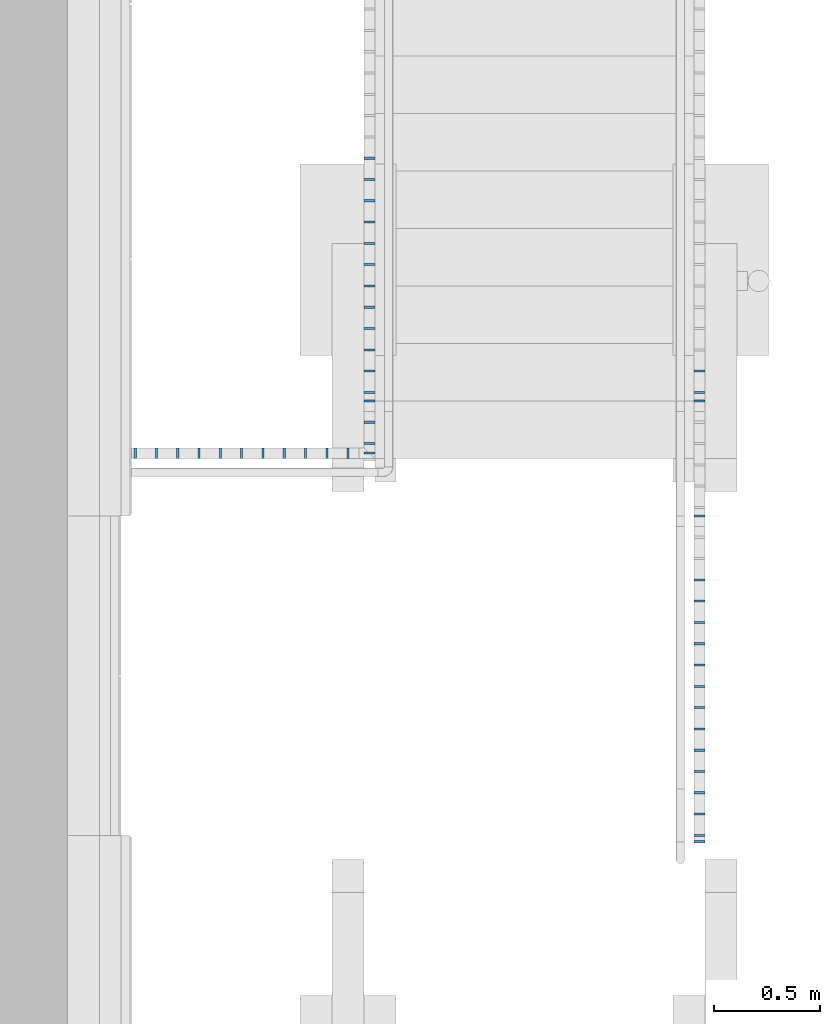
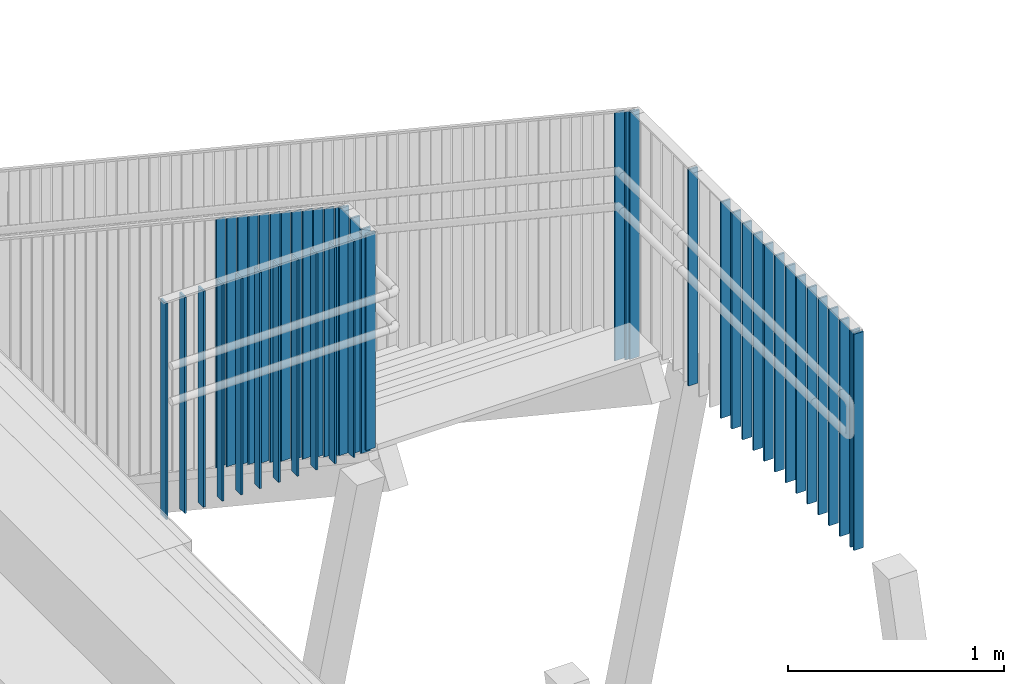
# One storey, part 77 of 418: 45 members, 2 elements without a shape of their own.
"""IFC2X3 building model written with IfcOpenShell, lengths in millimetres."""

from ifc_helpers import new_model, entity, si_unit, converted_unit, derived_unit, money_unit, direction, frame, origin_with_axes, place, context, subcontext, project, spatial, faceted_brep, material, type_object, element, aggregate, save


model = new_model("IFC2X3")

# Units and contexts
model_context = context("Model", 3, precision=0.01, world=origin_with_axes(), true_north=direction((0.0, 1.0)))
body_context = subcontext(model_context, "Body", "Model", "MODEL_VIEW")
ifc_project = project(units=[si_unit("LENGTHUNIT", "METRE", prefix="MILLI"), si_unit("AREAUNIT", "SQUARE_METRE"), si_unit("VOLUMEUNIT", "CUBIC_METRE"), converted_unit("PLANEANGLEUNIT", "DEGREE", entity("IfcPlaneAngleMeasure", 0.0174532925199), si_unit("PLANEANGLEUNIT", "RADIAN"), dimensions=[0, 0, 0, 0, 0, 0, 0]), si_unit("SOLIDANGLEUNIT", "STERADIAN"), money_unit("EUR"), converted_unit("TIMEUNIT", "Year", entity("IfcTimeMeasure", 31556926.0), si_unit("TIMEUNIT", "SECOND"), dimensions=[0, 0, 1, 0, 0, 0, 0]), si_unit("MASSUNIT", "GRAM", prefix="KILO"), si_unit("THERMODYNAMICTEMPERATUREUNIT", "DEGREE_CELSIUS"), si_unit("LUMINOUSINTENSITYUNIT", "LUMEN"), si_unit("ENERGYUNIT", "JOULE", prefix="MEGA"), derived_unit("THERMALCONDUCTANCEUNIT", [(si_unit("POWERUNIT", "WATT"), 1), (si_unit("LENGTHUNIT", "METRE"), -1), (si_unit("THERMODYNAMICTEMPERATUREUNIT", "KELVIN"), -1)]), derived_unit("SPECIFICHEATCAPACITYUNIT", [(si_unit("ENERGYUNIT", "JOULE"), 1), (si_unit("MASSUNIT", "GRAM", prefix="KILO"), -1), (si_unit("THERMODYNAMICTEMPERATUREUNIT", "KELVIN"), -1)]), derived_unit("MASSDENSITYUNIT", [(si_unit("MASSUNIT", "GRAM", prefix="KILO"), 1), (si_unit("VOLUMEUNIT", "CUBIC_METRE"), -1)])], contexts=[model_context])

# Site, building, storey
site_placement = place(None, origin_with_axes())
site = spatial("IfcSite", under=ifc_project, at=site_placement, Name="Paldiski mnt 245/1, Tallinn, Harjumaa", CompositionType="COMPLEX")
building_placement = place(site_placement, origin_with_axes())
building = spatial("IfcBuilding", under=site, at=building_placement, Name="RKAS Hoone üldnimetus (kasutust iseloomustav) -> IFC Project Manager -> SOLIBRI", CompositionType="ELEMENT")
storey_placement = place(building_placement, origin_with_axes())
storey = spatial("IfcBuildingStorey", under=building, at=storey_placement, Name="Esimene korrus", CompositionType="ELEMENT", Elevation=0.0)

# Railing, members
railing_type = type_object("IfcRailingType", Name="Railing Type", PredefinedType="NOTDEFINED")
railing_1_placement = place(storey_placement, frame((-15438.0000282, 781.88210964, -670.434782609), z_axis=(0.0, 0.0, 1.0), x_axis=(-0.773149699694, -0.634223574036, 0.0)))
railing_1 = element("IfcRailing", 1, at=railing_1_placement, inside=storey, type_object=railing_type, Name="Trepipiire", PredefinedType="NOTDEFINED")
ifc_material = material(Name="RAL7016")
member_type = type_object("IfcMemberType", Name="IfcMember", PredefinedType="POST")
member_1_placement = place(railing_1_placement, frame((3101.65531231, 3741.65195116, 3650.43478261), z_axis=(0.0, 0.0, 1.0), x_axis=(-0.773149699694, 0.634223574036, 0.0)))
member_1 = element("IfcMember", 2, at=member_1_placement, type_object=member_type, material=ifc_material, ObjectType="POST", context=body_context, shape_type="Brep", body=[
    faceted_brep([(25.0, -5.0, 93.3333333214), (25.0, 5.0, 86.6666666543), (25.0, 5.0, 1486.42433949), (25.0, -5.0, 1486.42433949), (-24.9999992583, 5.0, 86.6666666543), (-24.9999992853, -5.0, 93.3333333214), (-25.0, 5.0, 1486.42433949), (-25.0, -5.0, 1486.42433949)], [[[0, 1, 2, 3]], [[4, 1, 0, 5]], [[1, 4, 6, 2]], [[6, 7, 3, 2]], [[5, 0, 3, 7]], [[4, 5, 7, 6]]]),
])
member_2_placement = place(railing_1_placement, frame((3257.04008795, 3931.07362759, 3650.43478261), z_axis=(0.0, 0.0, 1.0), x_axis=(-0.773149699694, 0.634223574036, 0.0)))
member_2 = element("IfcMember", 3, at=member_2_placement, type_object=member_type, material=ifc_material, ObjectType="POST", context=body_context, shape_type="Brep", body=[
    faceted_brep([(25.0, -5.0, 1490.0), (25.0, -5.0, 270.0), (25.0, 5.0, 270.0), (25.0, 5.0, 1490.0), (-25.0, -5.0, 1490.0), (-25.0, -5.0, 270.0), (-25.0, 5.0, 270.0), (-25.0, 5.0, 1490.0)], [[[0, 1, 2, 3]], [[4, 5, 1, 0]], [[5, 6, 2, 1]], [[3, 2, 6, 7]], [[3, 7, 4, 0]], [[7, 6, 5, 4]]]),
])
member_3_placement = place(railing_1_placement, frame((2378.64043791, 2860.26129351, 2892.2705314), z_axis=(0.0, 0.0, 1.0), x_axis=(-0.773149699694, 0.634223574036, 0.0)))
member_3 = element("IfcMember", 4, at=member_3_placement, type_object=member_type, material=ifc_material, Name="Piirde Post - 001", ObjectType="POST", context=body_context, shape_type="Brep", body=[
    faceted_brep([(25.0, -5.0, 91.4975844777), (25.0, 5.0, 84.8309178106), (25.0, 5.0, 1486.6747182), (25.0, -5.0, 1493.3252818), (-24.9999961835, 5.0, 84.8309178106), (-24.9999962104, -5.0, 91.4975844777), (-25.0, 5.0, 1486.6747182), (-25.0, -5.0, 1493.3252818)], [[[0, 1, 2, 3]], [[4, 1, 0, 5]], [[1, 4, 6, 2]], [[6, 7, 3, 2]], [[5, 0, 3, 7]], [[4, 5, 7, 6]]]),
])
member_4_placement = place(railing_1_placement, frame((2442.06279531, 2937.57626348, 2958.77616747), z_axis=(0.0, 0.0, 1.0), x_axis=(-0.773149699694, 0.634223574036, 0.0)))
member_4 = element("IfcMember", 5, at=member_4_placement, type_object=member_type, material=ifc_material, Name="Balustraad - 001", ObjectType="POST", context=body_context, shape_type="Brep", body=[
    faceted_brep([(25.0, -5.0, 91.658615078), (25.0, 5.0, 84.9919484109), (25.0, 5.0, 1486.6747182), (25.0, -5.0, 1493.3252818), (-24.9999964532, 5.0, 84.9919484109), (-24.9999964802, -5.0, 91.658615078), (-25.0, 5.0, 1486.6747182), (-25.0, -5.0, 1493.3252818)], [[[0, 1, 2, 3]], [[4, 1, 0, 5]], [[1, 4, 6, 2]], [[6, 7, 3, 2]], [[5, 0, 3, 7]], [[4, 5, 7, 6]]]),
])
member_5_placement = place(railing_1_placement, frame((2505.48515271, 3014.89123345, 3025.28180354), z_axis=(0.0, 0.0, 1.0), x_axis=(-0.773149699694, 0.634223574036, 0.0)))
member_5 = element("IfcMember", 6, at=member_5_placement, type_object=member_type, material=ifc_material, Name="Balustraad - 001", ObjectType="POST", context=body_context, shape_type="Brep", body=[
    faceted_brep([(25.0, -5.0, 91.8196456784), (25.0, 5.0, 85.1529790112), (25.0, 5.0, 1486.6747182), (25.0, -5.0, 1493.3252818), (-24.9999967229, 5.0, 85.1529790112), (-24.9999967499, -5.0, 91.8196456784), (-25.0, 5.0, 1486.6747182), (-25.0, -5.0, 1493.3252818)], [[[0, 1, 2, 3]], [[4, 1, 0, 5]], [[1, 4, 6, 2]], [[6, 7, 3, 2]], [[5, 0, 3, 7]], [[4, 5, 7, 6]]]),
])
member_6_placement = place(railing_1_placement, frame((2568.90751012, 3092.20620342, 3091.78743961), z_axis=(0.0, 0.0, 1.0), x_axis=(-0.773149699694, 0.634223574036, 0.0)))
member_6 = element("IfcMember", 7, at=member_6_placement, type_object=member_type, material=ifc_material, Name="Balustraad - 001", ObjectType="POST", context=body_context, shape_type="Brep", body=[
    faceted_brep([(25.0, -5.0, 91.9806762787), (25.0, 5.0, 85.3140096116), (25.0, 5.0, 1486.6747182), (25.0, -5.0, 1493.3252818), (-24.9999969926, 5.0, 85.3140096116), (-24.9999970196, -5.0, 91.9806762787), (-25.0, 5.0, 1486.6747182), (-25.0, -5.0, 1493.3252818)], [[[0, 1, 2, 3]], [[4, 1, 0, 5]], [[1, 4, 6, 2]], [[6, 7, 3, 2]], [[5, 0, 3, 7]], [[4, 5, 7, 6]]]),
])
member_7_placement = place(railing_1_placement, frame((2632.32986752, 3169.52117339, 3158.29307568), z_axis=(0.0, 0.0, 1.0), x_axis=(-0.773149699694, 0.634223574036, 0.0)))
member_7 = element("IfcMember", 8, at=member_7_placement, type_object=member_type, material=ifc_material, Name="Balustraad - 001", ObjectType="POST", context=body_context, shape_type="Brep", body=[
    faceted_brep([(25.0, -5.0, 92.141706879), (25.0, 5.0, 85.4750402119), (25.0, 5.0, 1486.6747182), (25.0, -5.0, 1493.3252818), (-24.9999972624, 5.0, 85.4750402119), (-24.9999972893, -5.0, 92.141706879), (-25.0, 5.0, 1486.6747182), (-25.0, -5.0, 1493.3252818)], [[[0, 1, 2, 3]], [[4, 1, 0, 5]], [[1, 4, 6, 2]], [[6, 7, 3, 2]], [[5, 0, 3, 7]], [[4, 5, 7, 6]]]),
])
member_8_placement = place(railing_1_placement, frame((2695.75222493, 3246.83614336, 3224.79871176), z_axis=(0.0, 0.0, 1.0), x_axis=(-0.773149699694, 0.634223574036, 0.0)))
member_8 = element("IfcMember", 9, at=member_8_placement, type_object=member_type, material=ifc_material, Name="Balustraad - 001", ObjectType="POST", context=body_context, shape_type="Brep", body=[
    faceted_brep([(25.0, -5.0, 92.3027374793), (25.0, 5.0, 85.6360708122), (25.0, 5.0, 1486.6747182), (25.0, -5.0, 1493.3252818), (-24.9999975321, 5.0, 85.6360708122), (-24.999997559, -5.0, 92.3027374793), (-25.0, 5.0, 1486.6747182), (-25.0, -5.0, 1493.3252818)], [[[0, 1, 2, 3]], [[4, 1, 0, 5]], [[1, 4, 6, 2]], [[6, 7, 3, 2]], [[5, 0, 3, 7]], [[4, 5, 7, 6]]]),
])
member_9_placement = place(railing_1_placement, frame((2759.17458233, 3324.15111333, 3291.30434783), z_axis=(0.0, 0.0, 1.0), x_axis=(-0.773149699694, 0.634223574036, 0.0)))
member_9 = element("IfcMember", 10, at=member_9_placement, type_object=member_type, material=ifc_material, Name="Balustraad - 001", ObjectType="POST", context=body_context, shape_type="Brep", body=[
    faceted_brep([(25.0, -5.0, 92.4637680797), (25.0, 5.0, 85.7971014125), (25.0, 5.0, 1486.6747182), (25.0, -5.0, 1493.3252818), (-24.9999978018, 5.0, 85.7971014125), (-24.9999978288, -5.0, 92.4637680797), (-25.0, 5.0, 1486.6747182), (-25.0, -5.0, 1493.3252818)], [[[0, 1, 2, 3]], [[4, 1, 0, 5]], [[1, 4, 6, 2]], [[6, 7, 3, 2]], [[5, 0, 3, 7]], [[4, 5, 7, 6]]]),
])
member_10_placement = place(railing_1_placement, frame((2822.59693973, 3401.4660833, 3357.8099839), z_axis=(0.0, 0.0, 1.0), x_axis=(-0.773149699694, 0.634223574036, 0.0)))
member_10 = element("IfcMember", 11, at=member_10_placement, type_object=member_type, material=ifc_material, Name="Balustraad - 001", ObjectType="POST", context=body_context, shape_type="Brep", body=[
    faceted_brep([(25.0, -5.0, 92.62479868), (25.0, 5.0, 85.9581320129), (25.0, 5.0, 1486.6747182), (25.0, -5.0, 1493.3252818), (-24.9999980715, 5.0, 85.9581320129), (-24.9999980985, -5.0, 92.62479868), (-25.0, 5.0, 1486.6747182), (-25.0, -5.0, 1493.3252818)], [[[0, 1, 2, 3]], [[4, 1, 0, 5]], [[1, 4, 6, 2]], [[6, 7, 3, 2]], [[5, 0, 3, 7]], [[4, 5, 7, 6]]]),
])
member_11_placement = place(railing_1_placement, frame((2886.01929714, 3478.78105327, 3424.31561997), z_axis=(0.0, 0.0, 1.0), x_axis=(-0.773149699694, 0.634223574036, 0.0)))
member_11 = element("IfcMember", 12, at=member_11_placement, type_object=member_type, material=ifc_material, Name="Balustraad - 001", ObjectType="POST", context=body_context, shape_type="Brep", body=[
    faceted_brep([(25.0, -5.0, 92.7858292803), (25.0, 5.0, 86.1191626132), (25.0, 5.0, 1486.6747182), (25.0, -5.0, 1493.3252818), (-24.9999983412, 5.0, 86.1191626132), (-24.9999983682, -5.0, 92.7858292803), (-25.0, 5.0, 1486.6747182), (-25.0, -5.0, 1493.3252818)], [[[0, 1, 2, 3]], [[4, 1, 0, 5]], [[1, 4, 6, 2]], [[6, 7, 3, 2]], [[5, 0, 3, 7]], [[4, 5, 7, 6]]]),
])
member_12_placement = place(railing_1_placement, frame((2949.44165454, 3556.09602323, 3490.82125604), z_axis=(0.0, 0.0, 1.0), x_axis=(-0.773149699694, 0.634223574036, 0.0)))
member_12 = element("IfcMember", 13, at=member_12_placement, type_object=member_type, material=ifc_material, Name="Balustraad - 001", ObjectType="POST", context=body_context, shape_type="Brep", body=[
    faceted_brep([(25.0, -5.0, 92.9468598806), (25.0, 5.0, 86.2801932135), (25.0, 5.0, 1486.6747182), (25.0, -5.0, 1493.3252818), (-24.999998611, 5.0, 86.2801932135), (-24.9999986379, -5.0, 92.9468598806), (-25.0, 5.0, 1486.6747182), (-25.0, -5.0, 1493.3252818)], [[[0, 1, 2, 3]], [[4, 1, 0, 5]], [[1, 4, 6, 2]], [[6, 7, 3, 2]], [[5, 0, 3, 7]], [[4, 5, 7, 6]]]),
])
member_13_placement = place(railing_1_placement, frame((3012.86401194, 3633.4109932, 3557.32689211), z_axis=(0.0, 0.0, 1.0), x_axis=(-0.773149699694, 0.634223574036, 0.0)))
member_13 = element("IfcMember", 14, at=member_13_placement, type_object=member_type, material=ifc_material, Name="Balustraad - 001", ObjectType="POST", context=body_context, shape_type="Brep", body=[
    faceted_brep([(25.0, -5.0, 93.1078904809), (25.0, 5.0, 86.4412238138), (25.0, 5.0, 1486.6747182), (25.0, -5.0, 1493.3252818), (-24.9999988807, 5.0, 86.4412238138), (-24.9999989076, -5.0, 93.1078904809), (-25.0, 5.0, 1486.6747182), (-25.0, -5.0, 1493.3252818)], [[[0, 1, 2, 3]], [[4, 1, 0, 5]], [[1, 4, 6, 2]], [[6, 7, 3, 2]], [[5, 0, 3, 7]], [[4, 5, 7, 6]]]),
])
member_14_placement = place(railing_1_placement, frame((3076.28636935, 3710.72596317, 3623.83252818), z_axis=(0.0, 0.0, 1.0), x_axis=(-0.773149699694, 0.634223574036, 0.0)))
member_14 = element("IfcMember", 15, at=member_14_placement, type_object=member_type, material=ifc_material, Name="Balustraad - 001", ObjectType="POST", context=body_context, shape_type="Brep", body=[
    faceted_brep([(25.0, -5.0, 93.2689210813), (25.0, 5.0, 86.6022544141), (25.0, 5.0, 1486.6747182), (25.0, -5.0, 1493.3252818), (-24.9999991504, 5.0, 86.6022544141), (-24.9999991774, -5.0, 93.2689210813), (-25.0, 5.0, 1486.6747182), (-25.0, -5.0, 1493.3252818)], [[[0, 1, 2, 3]], [[4, 1, 0, 5]], [[1, 4, 6, 2]], [[6, 7, 3, 2]], [[5, 0, 3, 7]], [[4, 5, 7, 6]]]),
])
member_15_placement = place(railing_1_placement, frame((3165.07766971, 3818.96692113, 3650.43478261), z_axis=(0.0, 0.0, 1.0), x_axis=(-0.773149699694, 0.634223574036, 0.0)))
member_15 = element("IfcMember", 16, at=member_15_placement, type_object=member_type, material=ifc_material, Name="Balustraad - 001", ObjectType="POST", context=body_context, shape_type="Brep", body=[
    faceted_brep([(25.0, -5.0, 159.999999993), (25.0, 5.0, 153.333333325), (25.0, 5.0, 1490.0), (25.0, -5.0, 1490.0), (-24.999999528, 5.0, 153.333333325), (-24.999999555, -5.0, 159.999999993), (-25.0, 5.0, 1490.0), (-25.0, -5.0, 1490.0)], [[[0, 1, 2, 3]], [[4, 1, 0, 5]], [[1, 4, 6, 2]], [[6, 7, 3, 2]], [[5, 0, 3, 7]], [[4, 5, 7, 6]]]),
])
member_16_placement = place(railing_1_placement, frame((3228.50002712, 3896.2818911, 3650.43478261), z_axis=(0.0, 0.0, 1.0), x_axis=(-0.773149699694, 0.634223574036, 0.0)))
member_16 = element("IfcMember", 17, at=member_16_placement, type_object=member_type, material=ifc_material, Name="Balustraad - 001", ObjectType="POST", context=body_context, shape_type="Brep", body=[
    faceted_brep([(25.0, -5.0, 226.666666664), (25.0, 5.0, 219.999999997), (25.0, 5.0, 1490.0), (25.0, -5.0, 1490.0), (-24.9999997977, 5.0, 219.999999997), (-24.9999998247, -5.0, 226.666666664), (-25.0, 5.0, 1490.0), (-25.0, -5.0, 1490.0)], [[[0, 1, 2, 3]], [[4, 1, 0, 5]], [[1, 4, 6, 2]], [[6, 7, 3, 2]], [[5, 0, 3, 7]], [[4, 5, 7, 6]]]),
])
member_17_placement = place(railing_1_placement, frame((3334.35505792, 3867.65127018, 3650.43478261), z_axis=(0.0, 0.0, 1.0), x_axis=(-0.773149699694, 0.634223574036, 0.0)))
member_17 = element("IfcMember", 18, at=member_17_placement, type_object=member_type, material=ifc_material, Name="Balustraad - 001", ObjectType="POST", context=body_context, shape_type="Brep", body=[
    faceted_brep([(5.0, -25.0, 270.0), (5.0, 25.0, 270.0), (5.0, 25.0, 1490.0), (5.0, -25.0, 1490.0), (-5.0, 25.0, 270.0), (-5.0, -25.0, 270.0), (-5.0, 25.0, 1490.0), (-5.0, -25.0, 1490.0)], [[[0, 1, 2, 3]], [[4, 1, 0, 5]], [[1, 4, 6, 2]], [[2, 6, 7, 3]], [[5, 0, 3, 7]], [[4, 5, 7, 6]]]),
])
member_18_placement = place(railing_1_placement, frame((3411.67002789, 3804.22891278, 3650.43478261), z_axis=(0.0, 0.0, 1.0), x_axis=(-0.773149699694, 0.634223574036, 0.0)))
member_18 = element("IfcMember", 19, at=member_18_placement, type_object=member_type, material=ifc_material, Name="Balustraad - 001", ObjectType="POST", context=body_context, shape_type="Brep", body=[
    faceted_brep([(5.0, -25.0, 270.0), (5.0, 25.0, 270.0), (5.0, 25.0, 1490.0), (5.0, -25.0, 1490.0), (-5.0, 25.0, 270.0), (-5.0, -25.0, 270.0), (-5.0, 25.0, 1490.0), (-5.0, -25.0, 1490.0)], [[[0, 1, 2, 3]], [[4, 1, 0, 5]], [[1, 4, 6, 2]], [[2, 6, 7, 3]], [[5, 0, 3, 7]], [[4, 5, 7, 6]]]),
])
member_19_placement = place(railing_1_placement, frame((3488.98499786, 3740.80655537, 3650.43478261), z_axis=(0.0, 0.0, 1.0), x_axis=(-0.773149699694, 0.634223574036, 0.0)))
member_19 = element("IfcMember", 20, at=member_19_placement, type_object=member_type, material=ifc_material, Name="Balustraad - 001", ObjectType="POST", context=body_context, shape_type="Brep", body=[
    faceted_brep([(5.0, -25.0, 270.0), (5.0, 25.0, 270.0), (5.0, 25.0, 1490.0), (5.0, -25.0, 1490.0), (-5.0, 25.0, 270.0), (-5.0, -25.0, 270.0), (-5.0, 25.0, 1490.0), (-5.0, -25.0, 1490.0)], [[[0, 1, 2, 3]], [[4, 1, 0, 5]], [[1, 4, 6, 2]], [[2, 6, 7, 3]], [[5, 0, 3, 7]], [[4, 5, 7, 6]]]),
])
member_20_placement = place(railing_1_placement, frame((3566.29996783, 3677.38419797, 3650.43478261), z_axis=(0.0, 0.0, 1.0), x_axis=(-0.773149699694, 0.634223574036, 0.0)))
member_20 = element("IfcMember", 21, at=member_20_placement, type_object=member_type, material=ifc_material, Name="Balustraad - 001", ObjectType="POST", context=body_context, shape_type="Brep", body=[
    faceted_brep([(5.0, -25.0, 270.0), (5.0, 25.0, 270.0), (5.0, 25.0, 1490.0), (5.0, -25.0, 1490.0), (-5.0, 25.0, 270.0), (-5.0, -25.0, 270.0), (-5.0, 25.0, 1490.0), (-5.0, -25.0, 1490.0)], [[[0, 1, 2, 3]], [[4, 1, 0, 5]], [[1, 4, 6, 2]], [[2, 6, 7, 3]], [[5, 0, 3, 7]], [[4, 5, 7, 6]]]),
])
member_21_placement = place(railing_1_placement, frame((3643.61493779, 3613.96184057, 3650.43478261), z_axis=(0.0, 0.0, 1.0), x_axis=(-0.773149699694, 0.634223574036, 0.0)))
member_21 = element("IfcMember", 22, at=member_21_placement, type_object=member_type, material=ifc_material, Name="Balustraad - 001", ObjectType="POST", context=body_context, shape_type="Brep", body=[
    faceted_brep([(5.0, -25.0, 270.0), (5.0, 25.0, 270.0), (5.0, 25.0, 1490.0), (5.0, -25.0, 1490.0), (-5.0, 25.0, 270.0), (-5.0, -25.0, 270.0), (-5.0, 25.0, 1490.0), (-5.0, -25.0, 1490.0)], [[[0, 1, 2, 3]], [[4, 1, 0, 5]], [[1, 4, 6, 2]], [[2, 6, 7, 3]], [[5, 0, 3, 7]], [[4, 5, 7, 6]]]),
])
member_22_placement = place(railing_1_placement, frame((3720.92990776, 3550.53948316, 3650.43478261), z_axis=(0.0, 0.0, 1.0), x_axis=(-0.773149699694, 0.634223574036, 0.0)))
member_22 = element("IfcMember", 23, at=member_22_placement, type_object=member_type, material=ifc_material, Name="Balustraad - 001", ObjectType="POST", context=body_context, shape_type="Brep", body=[
    faceted_brep([(5.0, -25.0, 270.0), (5.0, 25.0, 270.0), (5.00000000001, 25.0, 1490.0), (5.00000000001, -25.0, 1490.0), (-5.0, 25.0, 270.0), (-5.0, -25.0, 270.0), (-5.0, 25.0, 1490.0), (-5.0, -25.0, 1490.0)], [[[0, 1, 2, 3]], [[4, 1, 0, 5]], [[1, 4, 6, 2]], [[2, 6, 7, 3]], [[5, 0, 3, 7]], [[4, 5, 7, 6]]]),
])
member_23_placement = place(railing_1_placement, frame((3798.24487773, 3487.11712576, 3650.43478261), z_axis=(0.0, 0.0, 1.0), x_axis=(-0.773149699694, 0.634223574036, 0.0)))
member_23 = element("IfcMember", 24, at=member_23_placement, type_object=member_type, material=ifc_material, Name="Balustraad - 001", ObjectType="POST", context=body_context, shape_type="Brep", body=[
    faceted_brep([(5.0, -25.0, 270.0), (5.0, 25.0, 270.0), (5.0, 25.0, 1490.0), (5.0, -25.0, 1490.0), (-5.0, 25.0, 270.0), (-5.0, -25.0, 270.0), (-5.0, 25.0, 1490.0), (-5.0, -25.0, 1490.0)], [[[0, 1, 2, 3]], [[4, 1, 0, 5]], [[1, 4, 6, 2]], [[2, 6, 7, 3]], [[5, 0, 3, 7]], [[4, 5, 7, 6]]]),
])
member_24_placement = place(railing_1_placement, frame((3875.5598477, 3423.69476836, 3650.43478261), z_axis=(0.0, 0.0, 1.0), x_axis=(-0.773149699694, 0.634223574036, 0.0)))
member_24 = element("IfcMember", 25, at=member_24_placement, type_object=member_type, material=ifc_material, Name="Balustraad - 001", ObjectType="POST", context=body_context, shape_type="Brep", body=[
    faceted_brep([(5.0, -25.0, 270.0), (5.0, 25.0, 270.0), (5.0, 25.0, 1490.0), (5.0, -25.0, 1490.0), (-5.0, 25.0, 270.0), (-5.0, -25.0, 270.0), (-5.0, 25.0, 1490.0), (-5.0, -25.0, 1490.0)], [[[0, 1, 2, 3]], [[4, 1, 0, 5]], [[1, 4, 6, 2]], [[2, 6, 7, 3]], [[5, 0, 3, 7]], [[4, 5, 7, 6]]]),
])
member_25_placement = place(railing_1_placement, frame((3952.87481767, 3360.27241095, 3650.43478261), z_axis=(0.0, 0.0, 1.0), x_axis=(-0.773149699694, 0.634223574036, 0.0)))
member_25 = element("IfcMember", 26, at=member_25_placement, type_object=member_type, material=ifc_material, Name="Balustraad - 001", ObjectType="POST", context=body_context, shape_type="Brep", body=[
    faceted_brep([(5.0, -25.0, 270.0), (5.0, 25.0, 270.0), (5.00000000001, 25.0, 1490.0), (5.00000000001, -25.0, 1490.0), (-5.0, 25.0, 270.0), (-5.0, -25.0, 270.0), (-5.0, 25.0, 1490.0), (-5.0, -25.0, 1490.0)], [[[0, 1, 2, 3]], [[4, 1, 0, 5]], [[1, 4, 6, 2]], [[2, 6, 7, 3]], [[5, 0, 3, 7]], [[4, 5, 7, 6]]]),
])
member_26_placement = place(railing_1_placement, frame((4030.18978764, 3296.85005355, 3650.43478261), z_axis=(0.0, 0.0, 1.0), x_axis=(-0.773149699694, 0.634223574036, 0.0)))
member_26 = element("IfcMember", 27, at=member_26_placement, type_object=member_type, material=ifc_material, Name="Balustraad - 001", ObjectType="POST", context=body_context, shape_type="Brep", body=[
    faceted_brep([(5.0, -25.0, 270.0), (5.0, 25.0, 270.0), (5.00000000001, 25.0, 1490.0), (5.00000000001, -25.0, 1490.0), (-5.0, 25.0, 270.0), (-5.0, -25.0, 270.0), (-5.0, 25.0, 1490.0), (-5.0, -25.0, 1490.0)], [[[0, 1, 2, 3]], [[4, 1, 0, 5]], [[1, 4, 6, 2]], [[2, 6, 7, 3]], [[5, 0, 3, 7]], [[4, 5, 7, 6]]]),
])
member_27_placement = place(railing_1_placement, frame((4107.50475761, 3233.42769615, 3650.43478261), z_axis=(0.0, 0.0, 1.0), x_axis=(-0.773149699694, 0.634223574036, 0.0)))
member_27 = element("IfcMember", 28, at=member_27_placement, type_object=member_type, material=ifc_material, Name="Balustraad - 001", ObjectType="POST", context=body_context, shape_type="Brep", body=[
    faceted_brep([(5.0, -25.0, 270.0), (5.0, 25.0, 270.0), (5.00000000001, 25.0, 1490.0), (5.00000000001, -25.0, 1490.0), (-5.0, 25.0, 270.0), (-5.0, -25.0, 270.0), (-5.0, 25.0, 1490.0), (-5.0, -25.0, 1490.0)], [[[0, 1, 2, 3]], [[4, 1, 0, 5]], [[1, 4, 6, 2]], [[2, 6, 7, 3]], [[5, 0, 3, 7]], [[4, 5, 7, 6]]]),
])
aggregate(railing_1, [member_1, member_2, member_3, member_4, member_5, member_6, member_7, member_8, member_9, member_10, member_11, member_12, member_13, member_14, member_15, member_16, member_17, member_18, member_19, member_20, member_21, member_22, member_23, member_24, member_25, member_26, member_27])

railing_2_placement = place(storey_placement, frame((-13938.0000282, 1623.82640275, -670.434782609), z_axis=(0.0, 0.0, 1.0), x_axis=(0.773149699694, 0.634223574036, 0.0)))
railing_2 = element("IfcRailing", 29, at=railing_2_placement, inside=storey, type_object=railing_type, Name="Trepipiire", PredefinedType="NOTDEFINED")
member_28_placement = place(railing_2_placement, frame((-3596.97874604, -4424.31210724, 3650.43478261), z_axis=(0.0, 0.0, 1.0), x_axis=(0.773149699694, -0.634223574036, 0.0)))
member_28 = element("IfcMember", 30, at=member_28_placement, type_object=member_type, material=ifc_material, ObjectType="POST", context=body_context, shape_type="Brep", body=[
    faceted_brep([(24.9999999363, -5.0, 93.3333333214), (24.9999999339, 5.0, 86.6666666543), (25.0, 5.0, 1486.42433949), (25.0, -5.0, 1486.42433949), (-25.0, 5.0, 86.6666666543), (-25.0, -5.0, 93.3333333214), (-25.0, 5.0, 1486.42433949), (-25.0, -5.0, 1486.42433949)], [[[0, 1, 2, 3]], [[4, 1, 0, 5]], [[1, 4, 6, 2]], [[6, 7, 3, 2]], [[5, 0, 3, 7]], [[4, 5, 7, 6]]]),
])
member_29_placement = place(railing_2_placement, frame((-3939.45947602, -4841.81294508, 3650.43478261), z_axis=(0.0, 0.0, 1.0), x_axis=(0.773149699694, -0.634223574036, 0.0)))
member_29 = element("IfcMember", 31, at=member_29_placement, type_object=member_type, material=ifc_material, ObjectType="POST", context=body_context, shape_type="Brep", body=[
    faceted_brep([(25.0, -5.0, 270.0), (25.0, 5.0, 270.0), (25.0, 5.0, 1490.0), (25.0, -5.0, 1490.0), (-25.0, 5.0, 270.0), (-25.0, -5.0, 270.0), (-25.0, 5.0, 1490.0), (-25.0, -5.0, 1490.0)], [[[0, 1, 2, 3]], [[4, 1, 0, 5]], [[1, 4, 6, 2]], [[6, 7, 3, 2]], [[5, 0, 3, 7]], [[4, 5, 7, 6]]]),
])
member_30_placement = place(railing_2_placement, frame((-4909.83560287, -6024.74912369, 3650.43478261), z_axis=(0.0, 0.0, 1.0), x_axis=(0.773149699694, -0.634223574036, 0.0)))
member_30 = element("IfcMember", 32, at=member_30_placement, type_object=member_type, material=ifc_material, ObjectType="POST", context=body_context, shape_type="Brep", body=[
    faceted_brep([(25.0, -5.0, 270.0), (25.0, 5.0, 270.0), (25.0, 5.0, 1490.0), (25.0, -5.0, 1490.0), (-25.0, 5.0, 270.0), (-25.0, -5.0, 270.0), (-25.0, 5.0, 1490.0), (-25.0, -5.0, 1490.0)], [[[0, 1, 2, 3]], [[4, 1, 0, 5]], [[1, 4, 6, 2]], [[6, 7, 3, 2]], [[5, 0, 3, 7]], [[4, 5, 7, 6]]]),
])
member_31_placement = place(railing_2_placement, frame((-3508.18744568, -4316.07114929, 3557.32689211), z_axis=(0.0, 0.0, 1.0), x_axis=(0.773149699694, -0.634223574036, 0.0)))
member_31 = element("IfcMember", 33, at=member_31_placement, type_object=member_type, material=ifc_material, Name="Balustraad - 001", ObjectType="POST", context=body_context, shape_type="Brep", body=[
    faceted_brep([(24.9999999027, -5.0, 93.1078904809), (24.9999999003, 5.0, 86.4412238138), (25.0, 5.0, 1486.6747182), (25.0, -5.0, 1493.3252818), (-25.0, 5.0, 86.4412238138), (-25.0, -5.0, 93.1078904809), (-25.0, 5.0, 1486.6747182), (-25.0, -5.0, 1493.3252818)], [[[0, 1, 2, 3]], [[4, 1, 0, 5]], [[1, 4, 6, 2]], [[6, 7, 3, 2]], [[5, 0, 3, 7]], [[4, 5, 7, 6]]]),
])
member_32_placement = place(railing_2_placement, frame((-3571.60980308, -4393.38611926, 3623.83252818), z_axis=(0.0, 0.0, 1.0), x_axis=(0.773149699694, -0.634223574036, 0.0)))
member_32 = element("IfcMember", 34, at=member_32_placement, type_object=member_type, material=ifc_material, Name="Balustraad - 001", ObjectType="POST", context=body_context, shape_type="Brep", body=[
    faceted_brep([(24.9999999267, -5.0, 93.2689210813), (24.9999999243, 5.0, 86.6022544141), (25.0, 5.0, 1486.6747182), (25.0, -5.0, 1493.3252818), (-25.0, 5.0, 86.6022544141), (-25.0, -5.0, 93.2689210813), (-25.0, 5.0, 1486.6747182), (-25.0, -5.0, 1493.3252818)], [[[0, 1, 2, 3]], [[4, 1, 0, 5]], [[1, 4, 6, 2]], [[6, 7, 3, 2]], [[5, 0, 3, 7]], [[4, 5, 7, 6]]]),
])
member_33_placement = place(railing_2_placement, frame((-4129.72654823, -5073.75785499, 3650.43478261), z_axis=(0.0, 0.0, 1.0), x_axis=(0.773149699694, -0.634223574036, 0.0)))
member_33 = element("IfcMember", 35, at=member_33_placement, type_object=member_type, material=ifc_material, Name="Balustraad - 001", ObjectType="POST", context=body_context, shape_type="Brep", body=[
    faceted_brep([(25.0, -5.0, 270.0), (25.0, 5.0, 270.0), (25.0, 5.0, 1490.0), (25.0, -5.0, 1490.0), (-25.0, 5.0, 270.0), (-25.0, -5.0, 270.0), (-25.0, 5.0, 1490.0), (-25.0, -5.0, 1490.0)], [[[0, 1, 2, 3]], [[4, 1, 0, 5]], [[1, 4, 6, 2]], [[6, 7, 3, 2]], [[5, 0, 3, 7]], [[4, 5, 7, 6]]]),
])
member_34_placement = place(railing_2_placement, frame((-4193.14890564, -5151.07282496, 3650.43478261), z_axis=(0.0, 0.0, 1.0), x_axis=(0.773149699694, -0.634223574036, 0.0)))
member_34 = element("IfcMember", 36, at=member_34_placement, type_object=member_type, material=ifc_material, Name="Balustraad - 001", ObjectType="POST", context=body_context, shape_type="Brep", body=[
    faceted_brep([(25.0, -5.0, 270.0), (25.0, 5.0, 270.0), (25.0, 5.0, 1490.0), (25.0, -5.0, 1490.0), (-25.0, 5.0, 270.0), (-25.0, -5.0, 270.0), (-25.0, 5.0, 1490.0), (-25.0, -5.0, 1490.0)], [[[0, 1, 2, 3]], [[4, 1, 0, 5]], [[1, 4, 6, 2]], [[6, 7, 3, 2]], [[5, 0, 3, 7]], [[4, 5, 7, 6]]]),
])
member_35_placement = place(railing_2_placement, frame((-4256.57126304, -5228.38779492, 3650.43478261), z_axis=(0.0, 0.0, 1.0), x_axis=(0.773149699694, -0.634223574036, 0.0)))
member_35 = element("IfcMember", 37, at=member_35_placement, type_object=member_type, material=ifc_material, Name="Balustraad - 001", ObjectType="POST", context=body_context, shape_type="Brep", body=[
    faceted_brep([(25.0, -5.0, 270.0), (25.0, 5.0, 270.0), (25.0, 5.0, 1490.0), (25.0, -5.0, 1490.0), (-25.0, 5.0, 270.0), (-25.0, -5.0, 270.0), (-25.0, 5.0, 1490.0), (-25.0, -5.0, 1490.0)], [[[0, 1, 2, 3]], [[4, 1, 0, 5]], [[1, 4, 6, 2]], [[6, 7, 3, 2]], [[5, 0, 3, 7]], [[4, 5, 7, 6]]]),
])
member_36_placement = place(railing_2_placement, frame((-4319.99362044, -5305.70276489, 3650.43478261), z_axis=(0.0, 0.0, 1.0), x_axis=(0.773149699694, -0.634223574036, 0.0)))
member_36 = element("IfcMember", 38, at=member_36_placement, type_object=member_type, material=ifc_material, Name="Balustraad - 001", ObjectType="POST", context=body_context, shape_type="Brep", body=[
    faceted_brep([(25.0, -5.0, 270.0), (25.0, 5.0, 270.0), (25.0, 5.0, 1490.0), (25.0, -5.0, 1490.0), (-25.0, 5.0, 270.0), (-25.0, -5.0, 270.0), (-25.0, 5.0, 1490.0), (-25.0, -5.0, 1490.0)], [[[0, 1, 2, 3]], [[4, 1, 0, 5]], [[1, 4, 6, 2]], [[6, 7, 3, 2]], [[5, 0, 3, 7]], [[4, 5, 7, 6]]]),
])
member_37_placement = place(railing_2_placement, frame((-4383.41597785, -5383.01773486, 3650.43478261), z_axis=(0.0, 0.0, 1.0), x_axis=(0.773149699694, -0.634223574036, 0.0)))
member_37 = element("IfcMember", 39, at=member_37_placement, type_object=member_type, material=ifc_material, Name="Balustraad - 001", ObjectType="POST", context=body_context, shape_type="Brep", body=[
    faceted_brep([(25.0, -5.0, 270.0), (25.0, 5.0, 270.0), (25.0, 5.0, 1490.0), (25.0, -5.0, 1490.0), (-25.0, 5.0, 270.0), (-25.0, -5.0, 270.0), (-25.0, 5.0, 1490.0), (-25.0, -5.0, 1490.0)], [[[0, 1, 2, 3]], [[4, 1, 0, 5]], [[1, 4, 6, 2]], [[6, 7, 3, 2]], [[5, 0, 3, 7]], [[4, 5, 7, 6]]]),
])
member_38_placement = place(railing_2_placement, frame((-4446.83833525, -5460.33270483, 3650.43478261), z_axis=(0.0, 0.0, 1.0), x_axis=(0.773149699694, -0.634223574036, 0.0)))
member_38 = element("IfcMember", 40, at=member_38_placement, type_object=member_type, material=ifc_material, Name="Balustraad - 001", ObjectType="POST", context=body_context, shape_type="Brep", body=[
    faceted_brep([(25.0, -5.0, 270.0), (25.0, 5.0, 270.0), (25.0, 5.0, 1490.0), (25.0, -5.0, 1490.0), (-25.0, 5.0, 270.0), (-25.0, -5.0, 270.0), (-25.0, 5.0, 1490.0), (-25.0, -5.0, 1490.0)], [[[0, 1, 2, 3]], [[4, 1, 0, 5]], [[1, 4, 6, 2]], [[6, 7, 3, 2]], [[5, 0, 3, 7]], [[4, 5, 7, 6]]]),
])
member_39_placement = place(railing_2_placement, frame((-4510.26069265, -5537.6476748, 3650.43478261), z_axis=(0.0, 0.0, 1.0), x_axis=(0.773149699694, -0.634223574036, 0.0)))
member_39 = element("IfcMember", 41, at=member_39_placement, type_object=member_type, material=ifc_material, Name="Balustraad - 001", ObjectType="POST", context=body_context, shape_type="Brep", body=[
    faceted_brep([(25.0, -5.0, 270.0), (25.0, 5.0, 270.0), (25.0, 5.0, 1490.0), (25.0, -5.0, 1490.0), (-25.0, 5.0, 270.0), (-25.0, -5.0, 270.0), (-25.0, 5.0, 1490.0), (-25.0, -5.0, 1490.0)], [[[0, 1, 2, 3]], [[4, 1, 0, 5]], [[1, 4, 6, 2]], [[6, 7, 3, 2]], [[5, 0, 3, 7]], [[4, 5, 7, 6]]]),
])
member_40_placement = place(railing_2_placement, frame((-4573.68305006, -5614.96264477, 3650.43478261), z_axis=(0.0, 0.0, 1.0), x_axis=(0.773149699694, -0.634223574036, 0.0)))
member_40 = element("IfcMember", 42, at=member_40_placement, type_object=member_type, material=ifc_material, Name="Balustraad - 001", ObjectType="POST", context=body_context, shape_type="Brep", body=[
    faceted_brep([(25.0, -5.0, 270.0), (25.0, 5.0, 270.0), (25.0, 5.0, 1490.0), (25.0, -5.0, 1490.0), (-25.0, 5.0, 270.0), (-25.0, -5.0, 270.0), (-25.0, 5.0, 1490.0), (-25.0, -5.0, 1490.0)], [[[0, 1, 2, 3]], [[4, 1, 0, 5]], [[1, 4, 6, 2]], [[6, 7, 3, 2]], [[5, 0, 3, 7]], [[4, 5, 7, 6]]]),
])
member_41_placement = place(railing_2_placement, frame((-4637.10540746, -5692.27761474, 3650.43478261), z_axis=(0.0, 0.0, 1.0), x_axis=(0.773149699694, -0.634223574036, 0.0)))
member_41 = element("IfcMember", 43, at=member_41_placement, type_object=member_type, material=ifc_material, Name="Balustraad - 001", ObjectType="POST", context=body_context, shape_type="Brep", body=[
    faceted_brep([(25.0, -5.0, 270.0), (25.0, 5.0, 270.0), (25.0, 5.0, 1490.0), (25.0, -5.0, 1490.0), (-25.0, 5.0, 270.0), (-25.0, -5.0, 270.0), (-25.0, 5.0, 1490.0), (-25.0, -5.0, 1490.0)], [[[0, 1, 2, 3]], [[4, 1, 0, 5]], [[1, 4, 6, 2]], [[6, 7, 3, 2]], [[5, 0, 3, 7]], [[4, 5, 7, 6]]]),
])
member_42_placement = place(railing_2_placement, frame((-4700.52776487, -5769.59258471, 3650.43478261), z_axis=(0.0, 0.0, 1.0), x_axis=(0.773149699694, -0.634223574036, 0.0)))
member_42 = element("IfcMember", 44, at=member_42_placement, type_object=member_type, material=ifc_material, Name="Piirde Post - 001", ObjectType="POST", context=body_context, shape_type="Brep", body=[
    faceted_brep([(25.0, -5.0, 270.0), (25.0, 5.0, 270.0), (25.0, 5.0, 1490.0), (25.0, -5.0, 1490.0), (-25.0, 5.0, 270.0), (-25.0, -5.0, 270.0), (-25.0, 5.0, 1490.0), (-25.0, -5.0, 1490.0)], [[[0, 1, 2, 3]], [[4, 1, 0, 5]], [[1, 4, 6, 2]], [[6, 7, 3, 2]], [[5, 0, 3, 7]], [[4, 5, 7, 6]]]),
])
member_43_placement = place(railing_2_placement, frame((-4763.95012227, -5846.90755468, 3650.43478261), z_axis=(0.0, 0.0, 1.0), x_axis=(0.773149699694, -0.634223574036, 0.0)))
member_43 = element("IfcMember", 45, at=member_43_placement, type_object=member_type, material=ifc_material, Name="Balustraad - 001", ObjectType="POST", context=body_context, shape_type="Brep", body=[
    faceted_brep([(25.0, -5.0, 270.0), (25.0, 5.0, 270.0), (25.0, 5.0, 1490.0), (25.0, -5.0, 1490.0), (-25.0, 5.0, 270.0), (-25.0, -5.0, 270.0), (-25.0, 5.0, 1490.0), (-25.0, -5.0, 1490.0)], [[[0, 1, 2, 3]], [[4, 1, 0, 5]], [[1, 4, 6, 2]], [[6, 7, 3, 2]], [[5, 0, 3, 7]], [[4, 5, 7, 6]]]),
])
member_44_placement = place(railing_2_placement, frame((-4827.37247967, -5924.22252465, 3650.43478261), z_axis=(0.0, 0.0, 1.0), x_axis=(0.773149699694, -0.634223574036, 0.0)))
member_44 = element("IfcMember", 46, at=member_44_placement, type_object=member_type, material=ifc_material, Name="Balustraad - 001", ObjectType="POST", context=body_context, shape_type="Brep", body=[
    faceted_brep([(25.0, -5.0, 270.0), (25.0, 5.0, 270.0), (25.0, 5.0, 1490.0), (25.0, -5.0, 1490.0), (-25.0, 5.0, 270.0), (-25.0, -5.0, 270.0), (-25.0, 5.0, 1490.0), (-25.0, -5.0, 1490.0)], [[[0, 1, 2, 3]], [[4, 1, 0, 5]], [[1, 4, 6, 2]], [[6, 7, 3, 2]], [[5, 0, 3, 7]], [[4, 5, 7, 6]]]),
])
member_45_placement = place(railing_2_placement, frame((-4890.79483708, -6001.53749462, 3650.43478261), z_axis=(0.0, 0.0, 1.0), x_axis=(0.773149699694, -0.634223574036, 0.0)))
member_45 = element("IfcMember", 47, at=member_45_placement, type_object=member_type, material=ifc_material, Name="Balustraad - 001", ObjectType="POST", context=body_context, shape_type="Brep", body=[
    faceted_brep([(25.0, -5.0, 270.0), (25.0, 5.0, 270.0), (25.0, 5.0, 1490.0), (25.0, -5.0, 1490.0), (-25.0, 5.0, 270.0), (-25.0, -5.0, 270.0), (-25.0, 5.0, 1490.0), (-25.0, -5.0, 1490.0)], [[[0, 1, 2, 3]], [[4, 1, 0, 5]], [[1, 4, 6, 2]], [[6, 7, 3, 2]], [[5, 0, 3, 7]], [[4, 5, 7, 6]]]),
])
aggregate(railing_2, [member_28, member_29, member_30, member_31, member_32, member_33, member_34, member_35, member_36, member_37, member_38, member_39, member_40, member_41, member_42, member_43, member_44, member_45])

save(model, "model.ifc")
